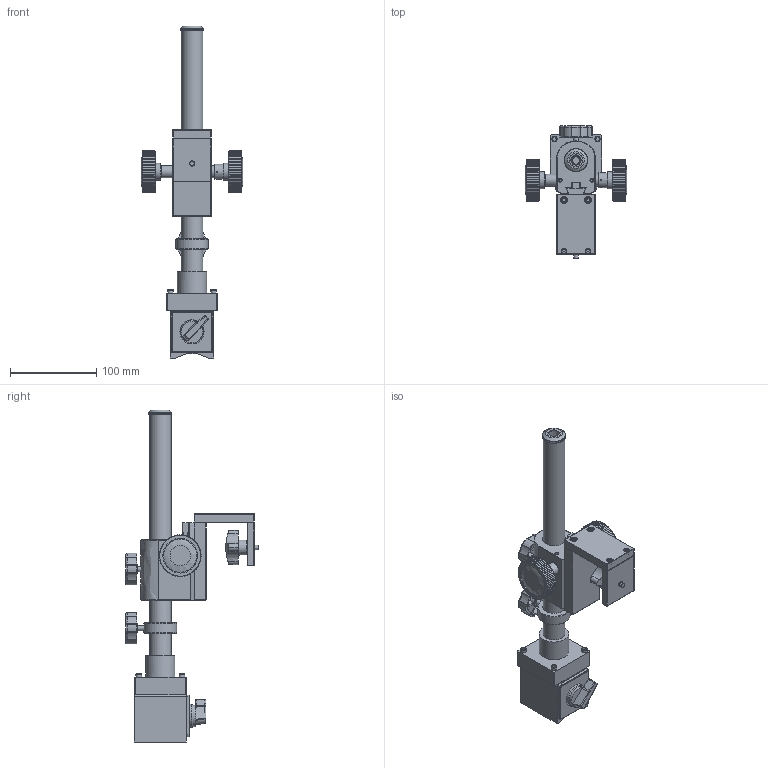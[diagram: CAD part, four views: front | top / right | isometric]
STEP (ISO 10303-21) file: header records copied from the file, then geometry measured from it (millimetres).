
FILE_DESCRIPTION(('STEP AP214'),'1');
FILE_NAME('MG-STD1.stp','2026-07-23T03:16:17',(' '),(' '),'Spatial InterOp 3D',' ',' ');
FILE_SCHEMA(('AUTOMOTIVE_DESIGN { 1 0 10303 214 1 1 1 1 }'));
Length unit declared in the file: metre
Products named in the file (4): MG-STD1; Component1; Component2; Component3
Assembly tree (3 placements, depth 2):
  MG-STD1
    Component1
    Component2
    Component3
Bounding box: 117.94 x 153.71 x 385.2 mm (x, y, z)
Volume: 664914.6 mm3; surface area: 171451.8 mm2
Topology: 4 solids, 9 shells, 2107 faces, 5092 edges, 2983 vertices
Faces by surface type: plane 1333, cylinder 532, bspline 143, torus 64, cone 26, sphere 9
Full cylindrical faces by diameter (mm): 1.5 x4, 3.9 x2, 4 x8, 4.25 x1, 5 x2, 5.1 x2, 5.6 x2, 5.8 x1, 6 x2, 6.4 x2, 6.5 x5, 6.9 x3, 7 x2, 8.5 x3, 9.8 x2, 9.9 x2, 10 x3, 11 x1, 11.7 x3, 14 x3, 14.9 x2, 15.2 x1, 16 x1, 17.4 x1, 17.6 x1, 18 x2, 20.2 x2, 21 x3, 25 x4, 27 x1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
Entity records: 141450 total; most frequent: CARTESIAN_POINT 61403, DIRECTION 9917, ORIENTED_EDGE 9732, STYLED_ITEM 5173, PRESENTATION_STYLE_ASSIGNMENT 5173, COLOUR_RGB 5173, EDGE_CURVE 4866, AXIS2_PLACEMENT_3D 3422
